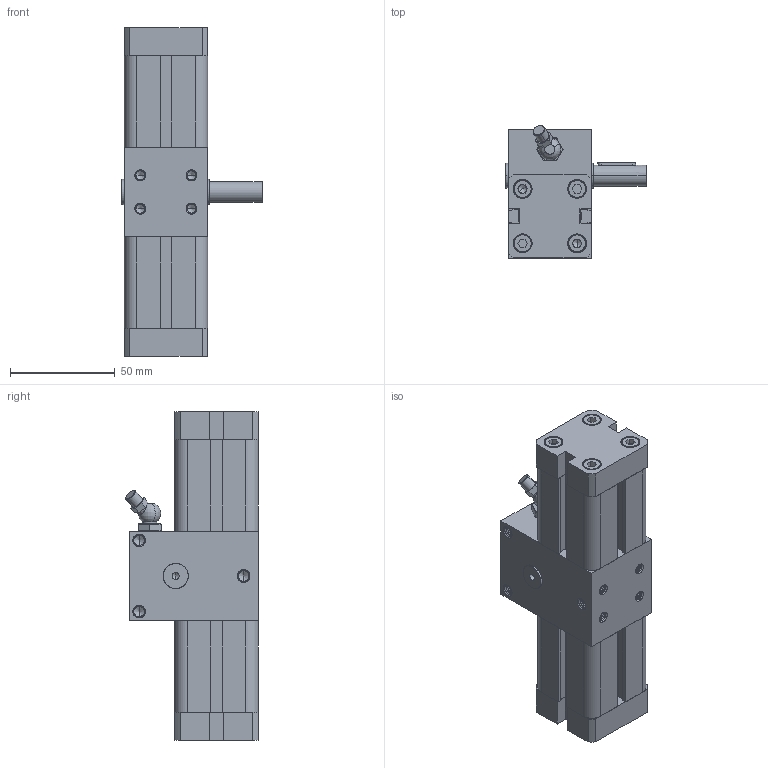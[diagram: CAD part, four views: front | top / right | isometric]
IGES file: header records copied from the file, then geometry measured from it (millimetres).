
Start section: SolidWorks IGES file using analytic representation for surfaces
Global section: file name: c:\CATALO3D\IGS\CRX25.90°.00.IGS; native system: SolidWorks 2005 by SolidWorks Corporation; preprocessor: SolidWorks 2005 by SolidWorks Corporation; author: tania; date: 051111.114613; units: millimetre
Bounding box: 67 x 63.42 x 157 mm (x, y, z)
Surface area: 87886.9 mm2 (no closed solid volume)
Topology: 0 solids, 0 shells, 1462 faces, 28259 edges, 34950 vertices
Faces by surface type: revolution 868, bspline 594
